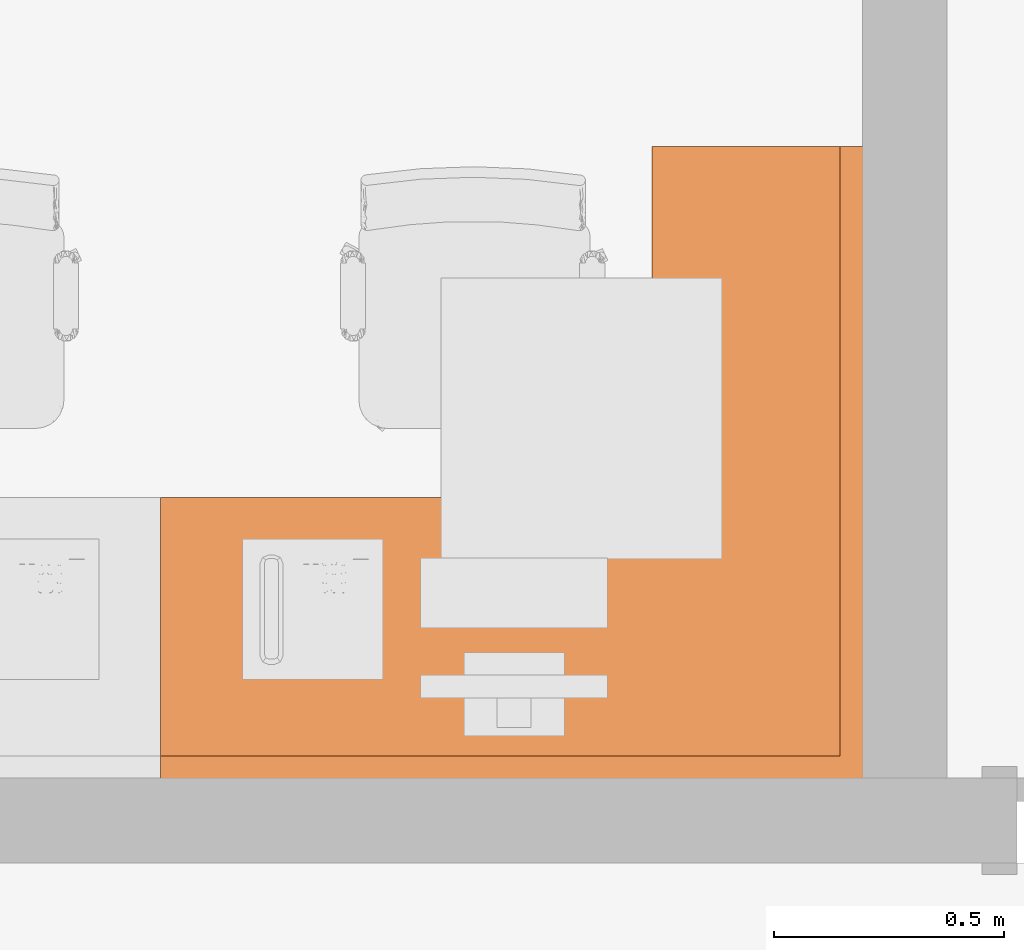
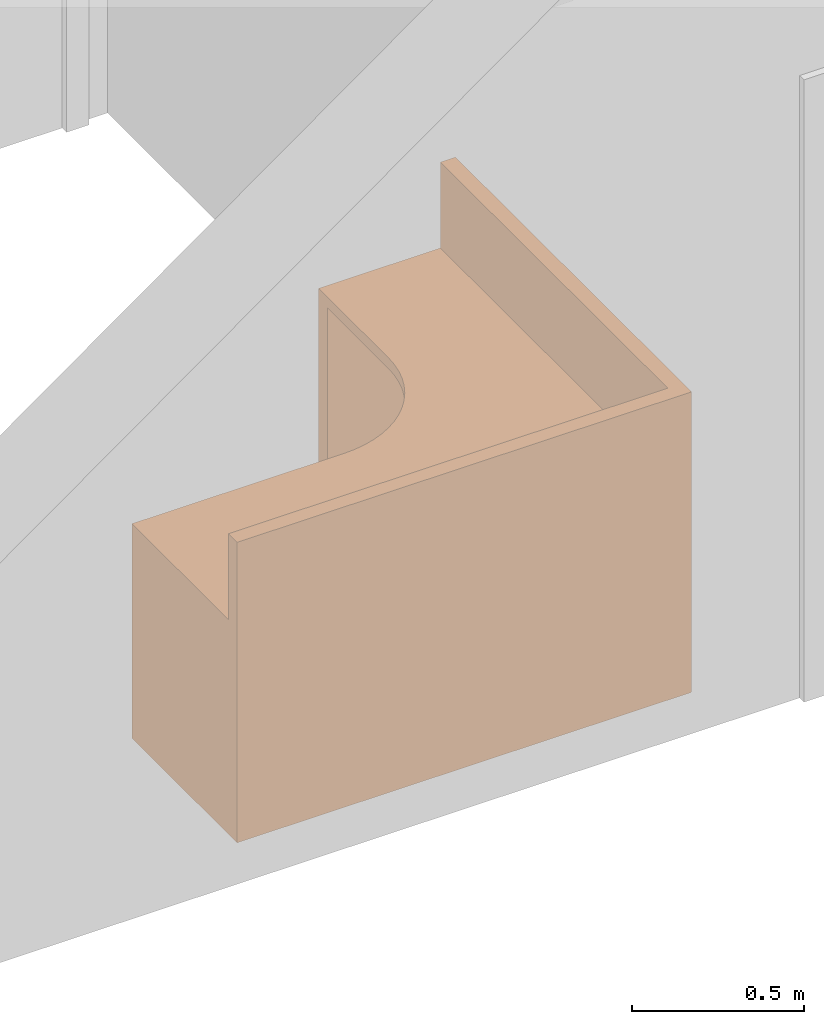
# One storey, part 16 of 142: 1 proxy.
"""IFC2X3 building model written with IfcOpenShell, lengths in feet."""

from ifc_helpers import new_model, entity, si_unit, converted_unit, derived_unit, direction, frame, frame_2d, origin, place, context, subcontext, project, spatial, polyline, circle_curve, parameter, trimmed, segment, composite_curve, rectangle, outline, extrude, source, transform, mapped, type_object, type_shapes, element, save


model = new_model("IFC2X3")

# Units and contexts
model_context = context("Model", 3, precision=0.0001, world=origin(), true_north=direction((6.12303176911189e-17, 1.0)))
body_context = subcontext(model_context, "Body", "Model", "MODEL_VIEW")
ifc_project = project(units=[converted_unit("LENGTHUNIT", "FOOT", entity("IfcRatioMeasure", 0.3048), si_unit("LENGTHUNIT", "METRE"), dimensions=[1, 0, 0, 0, 0, 0, 0]), converted_unit("AREAUNIT", "SQUARE FOOT", entity("IfcRatioMeasure", 0.09290304), si_unit("AREAUNIT", "SQUARE_METRE"), dimensions=[2, 0, 0, 0, 0, 0, 0]), converted_unit("VOLUMEUNIT", "CUBIC FOOT", entity("IfcRatioMeasure", 0.028316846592), si_unit("VOLUMEUNIT", "CUBIC_METRE"), dimensions=[3, 0, 0, 0, 0, 0, 0]), converted_unit("PLANEANGLEUNIT", "DEGREE", entity("IfcRatioMeasure", 0.0174532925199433), si_unit("PLANEANGLEUNIT", "RADIAN"), dimensions=[0, 0, 0, 0, 0, 0, 0]), si_unit("MASSUNIT", "GRAM", prefix="KILO"), derived_unit("MASSDENSITYUNIT", [(si_unit("MASSUNIT", "GRAM", prefix="KILO"), 1), (si_unit("LENGTHUNIT", "METRE"), -3)]), si_unit("TIMEUNIT", "SECOND"), si_unit("FREQUENCYUNIT", "HERTZ"), si_unit("THERMODYNAMICTEMPERATUREUNIT", "DEGREE_CELSIUS"), derived_unit("THERMALTRANSMITTANCEUNIT", [(si_unit("MASSUNIT", "GRAM", prefix="KILO"), 1), (si_unit("THERMODYNAMICTEMPERATUREUNIT", "KELVIN"), -1), (si_unit("TIMEUNIT", "SECOND"), -3)]), derived_unit("VOLUMETRICFLOWRATEUNIT", [(si_unit("LENGTHUNIT", "METRE"), 3), (si_unit("TIMEUNIT", "SECOND"), -1)]), si_unit("ELECTRICCURRENTUNIT", "AMPERE"), si_unit("ELECTRICVOLTAGEUNIT", "VOLT"), si_unit("POWERUNIT", "WATT"), si_unit("FORCEUNIT", "NEWTON"), si_unit("ILLUMINANCEUNIT", "LUX"), si_unit("LUMINOUSFLUXUNIT", "LUMEN"), si_unit("LUMINOUSINTENSITYUNIT", "CANDELA"), derived_unit("USERDEFINED", [(si_unit("MASSUNIT", "GRAM", prefix="KILO"), -1), (si_unit("LENGTHUNIT", "METRE"), -2), (si_unit("TIMEUNIT", "SECOND"), 3), (si_unit("LUMINOUSFLUXUNIT", "LUMEN"), 1)]), derived_unit("LINEARVELOCITYUNIT", [(si_unit("LENGTHUNIT", "METRE"), 1), (si_unit("TIMEUNIT", "SECOND"), -1)]), si_unit("PRESSUREUNIT", "PASCAL"), derived_unit("USERDEFINED", [(si_unit("LENGTHUNIT", "METRE"), -2), (si_unit("MASSUNIT", "GRAM", prefix="KILO"), 1), (si_unit("TIMEUNIT", "SECOND"), -2)])], contexts=[model_context])

# Site, building, storey, space
site_placement = place(None, origin())
site = spatial("IfcSite", under=ifc_project, at=site_placement, Name="Default", CompositionType="ELEMENT")
building_placement = place(site_placement, origin())
building = spatial("IfcBuilding", under=site, at=building_placement, Name="OUTPATIENT / PACT CLINIC (Ch. 265)", CompositionType="ELEMENT")
storey_placement = place(building_placement, origin())
storey = spatial("IfcBuildingStorey", under=building, at=storey_placement, Name="LEVEL 1", CompositionType="ELEMENT", Elevation=0.0)
space_placement = place(storey_placement, origin())
space = spatial("IfcSpace", under=storey, at=space_placement, Name="FA01", CompositionType="ELEMENT", InteriorOrExteriorSpace="INTERNAL")

# Proxy
building_element_proxy_type = type_object("IfcBuildingElementProxyType", Name="U0075 - Workstation, L-Shaped, Freestanding, 60x54", PredefinedType="NOTDEFINED")
shared_shape = source(origin(), body_context, "Body", "SweptSolid", [
    extrude(rectangle(XDim=2.0, YDim=0.166666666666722, at=frame_2d((-1.11022302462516e-16, -1.3836154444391e-14), x_axis=(1.0, 0.0))), frame((0.0833333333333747, 1.0, 0.0), z_axis=(0.0, 0.0, 1.0), x_axis=(0.0, 1.0, 0.0)), (0.0, 0.0, 1.0), 2.375),
    extrude(rectangle(XDim=1.5, YDim=0.166666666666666, at=frame_2d((-4.44089209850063e-16, 0.0), x_axis=(1.0, 0.0))), frame((4.25000000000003, 4.41666666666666, 0.0), z_axis=(0.0, 0.0, 1.0), x_axis=(-1.0, 0.0, 0.0)), (0.0, 0.0, 1.0), 2.37499999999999),
    extrude(outline(composite_curve([segment(polyline([(-2.3095238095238, -2.23809523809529), (2.19047619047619, -2.23809523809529)]), True, "CONTINUOUS"), segment(polyline([(2.19047619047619, -2.23809523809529), (2.19047619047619, -0.738095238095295)]), True, "CONTINUOUS"), segment(polyline([(2.19047619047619, -0.738095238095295), (0.857142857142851, -0.738095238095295)]), True, "CONTINUOUS"), segment(trimmed(circle_curve(frame_2d((0.857142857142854, 0.428571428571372), x_axis=(0.0, 1.0)), 1.16666666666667), [parameter(90.0)], [parameter(180.0)], True, "PARAMETER"), False, "CONTINUOUS"), segment(polyline([(-0.309523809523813, 0.428571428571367), (-0.309523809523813, 2.7619047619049)]), True, "CONTINUOUS"), segment(polyline([(-0.309523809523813, 2.7619047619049), (-2.3095238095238, 2.7619047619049)]), True, "CONTINUOUS"), segment(polyline([(-2.3095238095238, 2.7619047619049), (-2.3095238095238, -2.23809523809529)]), True, "CONTINUOUS")], self_intersect=False)), frame((2.76190476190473, 2.30952380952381, 2.37499999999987), z_axis=(0.0, 0.0, 1.0), x_axis=(0.0, 1.0, 0.0)), (0.0, 0.0, 1.0), 0.125),
    extrude(outline(polyline([(-2.16666666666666, -2.16666666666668), (2.33333333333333, -2.16666666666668), (2.33333333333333, -0.666666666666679), (-0.16666666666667, -0.666666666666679), (-0.16666666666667, 2.83333333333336), (-2.16666666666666, 2.83333333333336), (-2.16666666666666, -2.16666666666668)])), frame((2.83333333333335, 2.16666666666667, 2.37499999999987), z_axis=(0.0, 0.0, 1.0), x_axis=(0.0, 1.0, 0.0)), (0.0, 0.0, 1.0), 0.125),
    extrude(rectangle(XDim=0.166666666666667, YDim=5.00000000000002, at=frame_2d((2.77555756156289e-17, -2.22044604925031e-16), x_axis=(1.0, 0.0))), frame((2.49999999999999, 0.0750000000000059, 0.0), z_axis=(0.0, 0.0, 1.0), x_axis=(0.0, 1.0, 0.0)), (0.0, 0.0, 1.0), 3.5),
    extrude(rectangle(XDim=0.166666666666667, YDim=4.50000000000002, at=frame_2d((4.44089209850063e-16, 2.22044604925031e-16), x_axis=(1.0, 0.0))), frame((4.92500000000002, 2.25000000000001, 0.0), z_axis=(0.0, 0.0, 1.0), x_axis=(-1.0, 0.0, 0.0)), (0.0, 0.0, 1.0), 3.5),
])
type_shapes(building_element_proxy_type, [shared_shape])
proxy_placement = place(space_placement, frame((423.546783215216, -952.649655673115, 0.0)))
element("IfcBuildingElementProxy", 1, at=proxy_placement, inside=space, type_object=building_element_proxy_type, Name="U0075 - Workstation, L-Shaped, Freestanding, 60x54:U0075 - Workstation, L-Shaped, Freestanding, 60x54", ObjectType="U0075 - Workstation, L-Shaped, Freestanding, 60x54", context=body_context, shape_type="MappedRepresentation", body=[
    mapped(shared_shape, transform((0.0, 0.0, 0.0), scale=1.0)),
])

save(model, "model.ifc")
